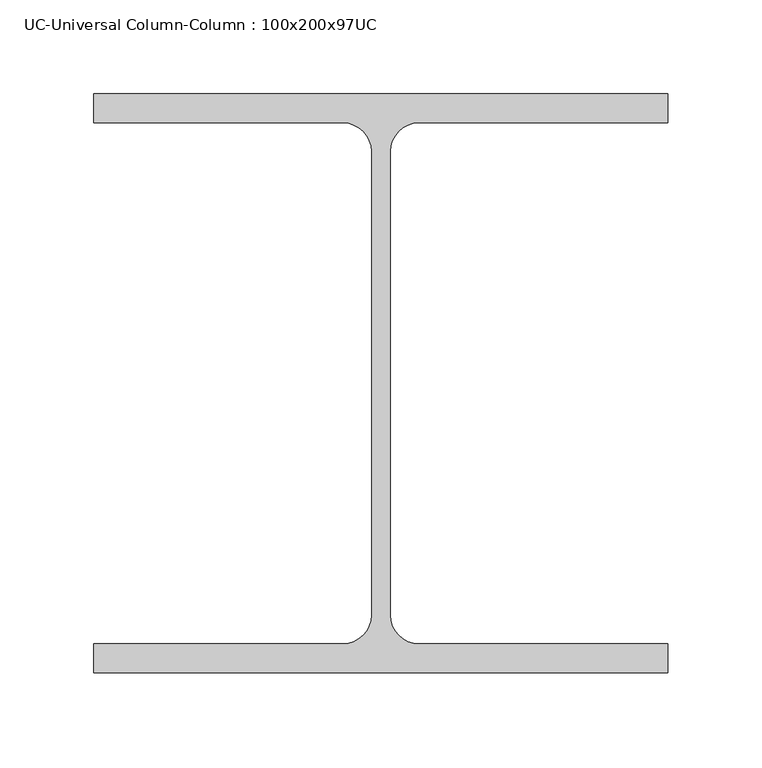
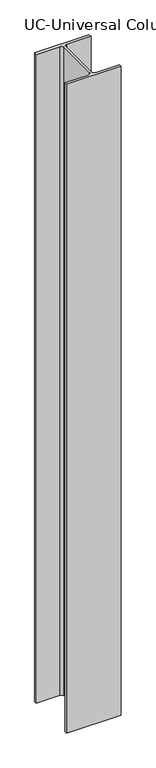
"""IFC4 building model written with IfcOpenShell, lengths in millimetres: column geometry, UC-Universal Column-Column : 100x200x97UC."""

from ifc_helpers import new_model, si_unit, point, frame_2d, origin, origin_with_axes, place, context, project, spatial, polyline, circle_curve, trimmed, segment, composite_curve, outline, extrude, source, transform, mapped, element, save


def uc_universal_column_column_100x200x97uc_fbc93eb8(model_context):
    return source(origin(), model_context, "Body", "SweptSolid", [
        extrude(outline(composite_curve([segment(polyline([(152.65, 153.95), (152.65, 138.55), (20.15, 138.55)]), True, "CONTINUOUS"), segment(trimmed(circle_curve(frame_2d((20.15, 123.35)), 15.2), [point((20.15, 138.55))], [point((4.95, 123.35))], True, "CARTESIAN"), True, "CONTINUOUS"), segment(polyline([(4.95, 123.35), (4.95, -123.35)]), True, "CONTINUOUS"), segment(trimmed(circle_curve(frame_2d((20.15, -123.35)), 15.2), [point((4.95, -123.35))], [point((20.15, -138.55))], True, "CARTESIAN"), True, "CONTINUOUS"), segment(polyline([(20.15, -138.55), (152.65, -138.55), (152.65, -153.95), (-152.65, -153.95), (-152.65, -138.55), (-20.15, -138.55)]), True, "CONTINUOUS"), segment(trimmed(circle_curve(frame_2d((-20.15, -123.35)), 15.2), [point((-20.15, -138.55))], [point((-4.95, -123.35))], True, "CARTESIAN"), True, "CONTINUOUS"), segment(polyline([(-4.95, -123.35), (-4.95, 123.35)]), True, "CONTINUOUS"), segment(trimmed(circle_curve(frame_2d((-20.15, 123.35)), 15.2), [point((-4.95, 123.35))], [point((-20.15, 138.55))], True, "CARTESIAN"), True, "CONTINUOUS"), segment(polyline([(-20.15, 138.55), (-152.65, 138.55), (-152.65, 153.95), (152.65, 153.95)]), True, "CONTINUOUS")], self_intersect=False)), origin_with_axes(), (0.0, 0.0, 1.0), 3840.0),
    ])


if __name__ == "__main__":
    model = new_model("IFC4")
    model_context = context("Model", 3, world=origin())
    ifc_project = project(units=[si_unit("LENGTHUNIT", "METRE", prefix="MILLI")], contexts=[model_context])
    site = spatial("IfcSite", under=ifc_project)
    building = spatial("IfcBuilding", under=site)
    placement = place(None, origin())
    uc_universal_column_column_100x200x97uc_shape = uc_universal_column_column_100x200x97uc_fbc93eb8(model_context)
    element("IfcColumn", 1, ObjectType="UC-Universal Column-Column : 100x200x97UC", at=placement, inside=building, context=model_context, shape_type="MappedRepresentation", body=[
        mapped(uc_universal_column_column_100x200x97uc_shape, transform((0.0, 0.0, 0.0), x_axis=(1.0, 0.0, 0.0), y_axis=(0.0, 1.0, 0.0), z_axis=(0.0, 0.0, 1.0))),
    ])
    save(model, "model.ifc")
